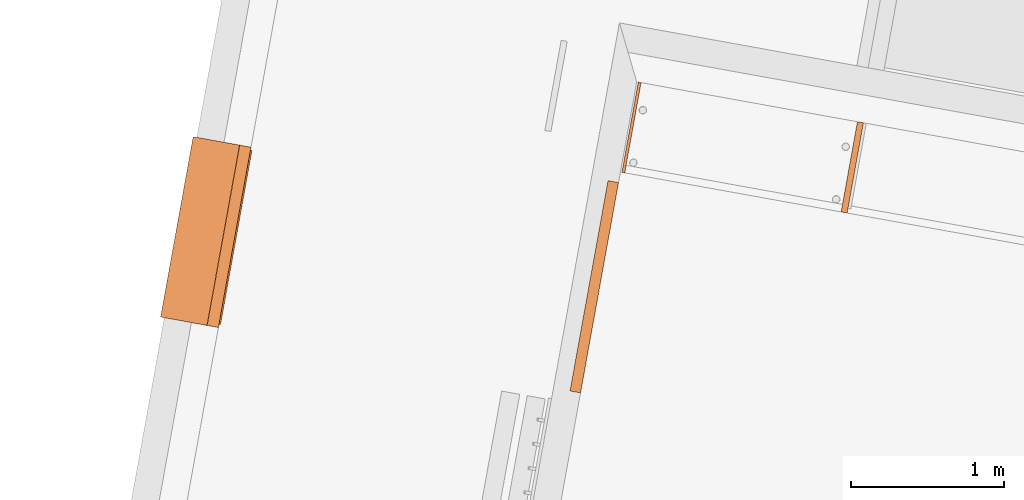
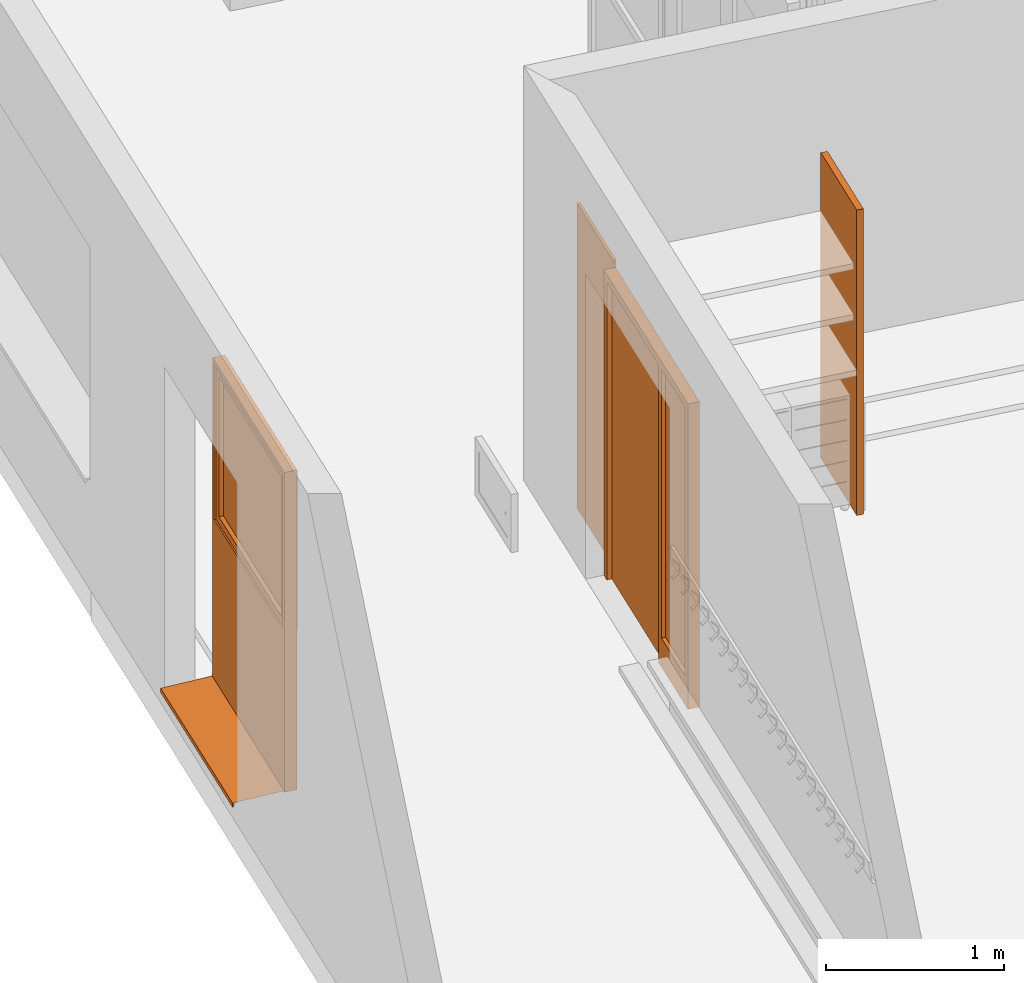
# One storey, part 13 of 52: 4 proxies.
"""IFC2X3 building model written with IfcOpenShell, lengths in metres."""

from ifc_helpers import new_model, entity, si_unit, converted_unit, derived_unit, money_unit, direction, frame, origin_with_axes, place, context, subcontext, project, spatial, polyline, outline, extrude, open_shell, faceted_brep, surface_model, source, transform, mapped, material, type_object, element, save


model = new_model("IFC2X3")

# Units and contexts
model_context = context("Model", 3, precision=1e-05, world=origin_with_axes(), true_north=direction((0.0, 1.0)))
body_context = subcontext(model_context, "Body", "Model", "MODEL_VIEW")
ifc_project = project(units=[si_unit("LENGTHUNIT", "METRE"), si_unit("AREAUNIT", "SQUARE_METRE"), si_unit("VOLUMEUNIT", "CUBIC_METRE"), converted_unit("PLANEANGLEUNIT", "DEGREE", entity("IfcPlaneAngleMeasure", 0.0174532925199), si_unit("PLANEANGLEUNIT", "RADIAN"), dimensions=[0, 0, 0, 0, 0, 0, 0]), money_unit("CHF"), converted_unit("TIMEUNIT", "Year", entity("IfcTimeMeasure", 31556926.0), si_unit("TIMEUNIT", "SECOND"), dimensions=[0, 0, 1, 0, 0, 0, 0]), si_unit("MASSUNIT", "GRAM", prefix="KILO"), si_unit("THERMODYNAMICTEMPERATUREUNIT", "DEGREE_CELSIUS"), si_unit("LUMINOUSINTENSITYUNIT", "LUMEN"), si_unit("ENERGYUNIT", "JOULE", prefix="MEGA"), derived_unit("THERMALCONDUCTANCEUNIT", [(si_unit("POWERUNIT", "WATT"), 1), (si_unit("LENGTHUNIT", "METRE"), -1), (si_unit("THERMODYNAMICTEMPERATUREUNIT", "KELVIN"), -1)]), derived_unit("SPECIFICHEATCAPACITYUNIT", [(si_unit("ENERGYUNIT", "JOULE"), 1), (si_unit("MASSUNIT", "GRAM", prefix="KILO"), -1), (si_unit("THERMODYNAMICTEMPERATUREUNIT", "KELVIN"), -1)]), derived_unit("MASSDENSITYUNIT", [(si_unit("MASSUNIT", "GRAM", prefix="KILO"), 1), (si_unit("VOLUMEUNIT", "CUBIC_METRE"), -1)])], contexts=[model_context])

# Site, building, storey
site_placement = place(None, frame((0.0, 0.0, 0.0), z_axis=(0.0, 0.0, 1.0), x_axis=(-0.177771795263, -0.984071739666, 0.0)))
site = spatial("IfcSite", under=ifc_project, at=site_placement, Name="Site", CompositionType="ELEMENT")
building_placement = place(site_placement, origin_with_axes())
building = spatial("IfcBuilding", under=site, at=building_placement, Name="Bâtiment", CompositionType="ELEMENT")
storey_placement = place(building_placement, frame((0.0, 0.0, 3.2), z_axis=(0.0, 0.0, 1.0), x_axis=(1.0, 0.0, 0.0)))
storey = spatial("IfcBuildingStorey", under=building, at=storey_placement, Name="R+1", CompositionType="ELEMENT", Elevation=3.2)

# Proxies
ifc_material_1 = material(Name="_panneau mélaminé")
building_element_proxy_type_1 = type_object("IfcBuildingElementProxyType", Name="_panneau mélaminé 40", PredefinedType="NOTDEFINED")
proxy_1_placement = place(storey_placement, frame((147.149841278, -154.978236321, 0.0), z_axis=(0.0, 0.0, 1.0), x_axis=(-1.0, 0.0, 0.0)))
element("IfcBuildingElementProxy", 1, at=proxy_1_placement, inside=storey, type_object=building_element_proxy_type_1, material=ifc_material_1, Name="cloison-fd-classe G", context=body_context, shape_type="SweptSolid", body=[
    extrude(outline(polyline([(0.0, -0.04), (0.600000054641, -0.04), (0.600000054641, 0.0), (0.0, 0.0), (0.0, -0.04)])), origin_with_axes(), (0.0, 0.0, 1.0), 2.1),
])
building_element_proxy_type_2 = type_object("IfcBuildingElementProxyType", Name="_panneau mélaminé 19", PredefinedType="NOTDEFINED")
proxy_2_placement = place(storey_placement, frame((147.149841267, -156.418093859, 0.0), z_axis=(0.0, 0.0, 1.0), x_axis=(-1.0, 0.0, 0.0)))
element("IfcBuildingElementProxy", 2, at=proxy_2_placement, inside=storey, type_object=building_element_proxy_type_2, material=ifc_material_1, Name="cloison-fd-classe G", context=body_context, shape_type="SweptSolid", body=[
    extrude(outline(polyline([(0.0, 0.0), (0.600000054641, 0.0), (0.600000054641, 0.019), (0.0, 0.019), (0.0, 0.0)])), origin_with_axes(), (0.0, 0.0, 1.0), 2.1),
])
ifc_material_2 = material(Name="Matériau de construction IFC")
building_element_proxy_type_3 = type_object("IfcBuildingElementProxyType", Name="Porte avec tierce vitrée côté 2 21", PredefinedType="NOTDEFINED")
shared_shape_1 = source(origin_with_axes(), body_context, "Body", "SurfaceModel", [
    faceted_brep([(1.4, 0.17999893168, 0.0), (1.4, 0.10999893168, 0.0), (1.35, 0.10999893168, 0.0), (1.35, 0.17999893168, 0.0), (1.4, 0.17999893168, 2.05), (1.4, 0.10999893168, 2.05), (1.35, 0.10999893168, 2.05), (1.35, 0.10999893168, 0.2), (1.35, 0.17999893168, 0.2), (1.35, 0.17999893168, 2.05)], [[[0, 1, 2, 3]], [[4, 5, 1, 0]], [[1, 5, 6, 7, 2]], [[3, 2, 7, 8]], [[0, 3, 8, 9, 4]], [[9, 6, 5, 4]], [[8, 7, 6, 9]]]),
    faceted_brep([(0.91, 0.13999893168, 0.0), (0.91, 0.10999893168, 0.0), (0.91, 0.10999893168, 2.05), (0.91, 0.13999893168, 2.05), (0.93, 0.13999893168, 0.0), (0.93, 0.17999893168, 0.0), (0.96, 0.17999893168, 0.0), (0.96, 0.10999893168, 0.0), (0.96, 0.10999893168, 0.2), (0.96, 0.10999893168, 2.05), (0.93, 0.13999893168, 2.05), (0.96, 0.17999893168, 2.05), (0.93, 0.17999893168, 2.05), (0.96, 0.17999893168, 0.2)], [[[0, 1, 2, 3]], [[4, 5, 6, 7, 1, 0]], [[7, 8, 9, 2, 1]], [[10, 3, 2, 9, 11, 12]], [[10, 4, 0, 3]], [[12, 5, 4, 10]], [[12, 11, 13, 6, 5]], [[6, 13, 8, 7]], [[13, 11, 9, 8]]]),
    faceted_brep([(1.35, 0.17999893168, 0.2), (1.35, 0.10999893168, 0.2), (1.35, 0.10999893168, 0.0), (1.35, 0.17999893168, 0.0), (0.96, 0.17999893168, 0.2), (0.96, 0.10999893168, 0.2), (0.96, 0.10999893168, 0.0), (0.96, 0.17999893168, 0.0)], [[[0, 1, 2, 3]], [[4, 5, 1, 0]], [[1, 5, 6, 2]], [[3, 2, 6, 7]], [[0, 3, 7, 4]], [[7, 6, 5, 4]]]),
    faceted_brep([(0.03, 0.13999893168, 2.05), (0.03, 0.17999893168, 2.05), (0.0, 0.17999893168, 2.05), (0.0, 0.10999893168, 2.05), (0.05, 0.10999893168, 2.05), (0.05, 0.13999893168, 2.05), (0.03, 0.13999893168, 0.0), (0.03, 0.17999893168, 0.0), (0.0, 0.17999893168, 0.0), (0.0, 0.10999893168, 0.0), (0.05, 0.10999893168, 0.0), (0.05, 0.13999893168, 0.0)], [[[0, 1, 2, 3, 4, 5]], [[0, 6, 7, 1]], [[7, 8, 2, 1]], [[2, 8, 9, 3]], [[3, 9, 10, 4]], [[5, 4, 10, 11]], [[5, 11, 6, 0]], [[6, 11, 10, 9, 8, 7]]]),
    faceted_brep([(0.93, 0.17999893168, 2.07), (0.03, 0.17999893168, 2.07), (0.03, 0.17999893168, 2.05), (0.0, 0.17999893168, 2.05), (0.0, 0.17999893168, 2.1), (1.4, 0.17999893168, 2.1), (1.4, 0.17999893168, 2.05), (1.35, 0.17999893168, 2.05), (0.96, 0.17999893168, 2.05), (0.93, 0.17999893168, 2.05), (0.93, 0.13999893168, 2.07), (0.03, 0.13999893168, 2.07), (0.03, 0.13999893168, 2.05), (0.05, 0.13999893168, 2.05), (0.05, 0.10999893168, 2.05), (0.0, 0.10999893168, 2.05), (0.0, 0.10999893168, 2.1), (1.4, 0.10999893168, 2.1), (1.4, 0.10999893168, 2.05), (1.35, 0.10999893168, 2.05), (0.96, 0.10999893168, 2.05), (0.93, 0.13999893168, 2.05), (0.91, 0.10999893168, 2.05)], [[[0, 1, 2, 3, 4, 5, 6, 7, 8, 9]], [[0, 10, 11, 1]], [[1, 11, 12, 2]], [[12, 13, 14, 15, 3, 2]], [[4, 3, 15, 16]], [[5, 4, 16, 17]], [[6, 5, 17, 18]], [[7, 6, 18, 19]], [[8, 7, 19, 20]], [[21, 9, 8, 20, 22, 14, 13]], [[9, 21, 10, 0]], [[12, 11, 10, 21, 13]], [[14, 22, 20, 19, 18, 17, 16, 15]]]),
    faceted_brep([(0.03, 0.17999893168, 0.0), (0.93, 0.17999893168, 0.0), (0.93, 0.13999893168, 0.0), (0.03, 0.13999893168, 0.0), (0.03, 0.17999893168, 2.07), (0.93, 0.17999893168, 2.07), (0.93, 0.13999893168, 2.07), (0.03, 0.13999893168, 2.07)], [[[0, 1, 2, 3]], [[0, 4, 5, 1]], [[1, 5, 6, 2]], [[3, 2, 6, 7]], [[4, 0, 3, 7]], [[5, 4, 7, 6]]]),
    surface_model("IfcShellBasedSurfaceModel", [(1.35, 0.14499893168, 0.2), (0.96, 0.14499893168, 0.2), (0.96, 0.14499893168, 2.05), (1.35, 0.14499893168, 2.05)], [open_shell([[[0, 1, 2, 3]]])]),
    surface_model("IfcShellBasedSurfaceModel", [(1.35, 0.13499893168, 0.2), (1.35, 0.13499893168, 2.05), (0.96, 0.13499893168, 2.05), (0.96, 0.13499893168, 0.2)], [open_shell([[[0, 1, 2, 3]]])]),
])
proxy_3_placement = place(storey_placement, frame((147.219841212, -156.62715293, 0.0), z_axis=(0.0, 0.0, 1.0), x_axis=(1.0, 0.0, 0.0)))
element("IfcBuildingElementProxy", 3, at=proxy_3_placement, inside=storey, type_object=building_element_proxy_type_3, material=ifc_material_2, Name="17", context=body_context, shape_type="MappedRepresentation", body=[
    mapped(shared_shape_1, transform((0.0, 0.0, 0.0))),
])
building_element_proxy_type_4 = type_object("IfcBuildingElementProxyType", Name="Fenêtre variable 21", PredefinedType="NOTDEFINED")
shared_shape_2 = source(origin_with_axes(), body_context, "Body", "SurfaceModel", [
    surface_model("IfcShellBasedSurfaceModel", [(0.0, 0.284, 0.02), (0.0, 0.284, 0.01), (1.2, 0.284, 0.01), (1.2, 0.284, 0.02), (0.0, -0.025, -0.00087719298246), (1.2, -0.025, -0.00087719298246), (0.0, -0.025, -0.0308771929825), (1.2, -0.025, -0.0308771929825), (0.0, -0.0125, -0.0183771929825), (1.2, -0.0125, -0.0183771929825)], [open_shell([[[0, 1, 2, 3]], [[1, 4, 5, 2]], [[4, 6, 7, 5]], [[6, 8, 9, 7]]])]),
    faceted_brep([(0.02, 0.36, 2.169), (0.0, 0.36, 2.169), (0.0, 0.285, 2.169), (0.03, 0.285, 2.169), (0.03, 0.295, 2.169), (0.02, 0.295, 2.169), (0.02, 0.36, 1.095), (0.03, 0.36, 1.095), (0.03, 0.36, 1.055), (0.03, 0.36, 0.05), (0.0, 0.36, 0.05), (0.0, 0.285, 0.05), (0.03, 0.285, 1.105), (0.03, 0.285, 0.05), (0.03, 0.285, 1.055), (0.03, 0.295, 1.105), (0.03, 0.295, 1.095), (0.02, 0.295, 1.095)], [[[0, 1, 2, 3, 4, 5]], [[6, 7, 8, 9, 10, 1, 0]], [[1, 10, 11, 2]], [[12, 3, 2, 11, 13, 14]], [[4, 3, 12, 15]], [[15, 16, 17, 5, 4]], [[5, 17, 6, 0]], [[6, 17, 16, 7]], [[16, 15, 12, 14, 8, 7]], [[9, 8, 14, 13]], [[10, 9, 13, 11]]]),
    faceted_brep([(1.17, 0.295, 2.169), (1.17, 0.285, 2.169), (1.2, 0.285, 2.169), (1.2, 0.36, 2.169), (1.18, 0.36, 2.169), (1.18, 0.295, 2.169), (1.17, 0.295, 1.105), (1.17, 0.285, 1.105), (1.2, 0.285, 0.05), (1.17, 0.285, 1.055), (1.17, 0.285, 0.05), (1.2, 0.36, 0.05), (1.18, 0.36, 1.095), (1.17, 0.36, 0.05), (1.17, 0.36, 1.055), (1.17, 0.36, 1.095), (1.18, 0.295, 1.095), (1.17, 0.295, 1.095)], [[[0, 1, 2, 3, 4, 5]], [[6, 7, 1, 0]], [[8, 2, 1, 7, 9, 10]], [[11, 3, 2, 8]], [[12, 4, 3, 11, 13, 14, 15]], [[12, 16, 5, 4]], [[5, 16, 17, 6, 0]], [[17, 15, 14, 9, 7, 6]], [[14, 13, 10, 9]], [[13, 11, 8, 10]], [[15, 17, 16, 12]]]),
    faceted_brep([(0.03, 0.295, 1.105), (0.03, 0.285, 1.105), (1.17, 0.285, 1.105), (1.17, 0.295, 1.105), (0.03, 0.295, 1.095), (0.03, 0.36, 1.095), (0.03, 0.36, 1.055), (0.03, 0.285, 1.055), (1.17, 0.285, 1.055), (1.17, 0.295, 1.095), (1.17, 0.36, 1.055), (1.17, 0.36, 1.095)], [[[0, 1, 2, 3]], [[4, 5, 6, 7, 1, 0]], [[8, 2, 1, 7]], [[9, 3, 2, 8, 10, 11]], [[9, 4, 0, 3]], [[5, 4, 9, 11]], [[11, 10, 6, 5]], [[6, 10, 8, 7]]]),
    faceted_brep([(0.02, 0.36, 2.169), (0.0, 0.36, 2.169), (0.0, 0.36, 2.199), (1.2, 0.36, 2.199), (1.2, 0.36, 2.169), (1.18, 0.36, 2.169), (1.18, 0.36, 2.179), (0.02, 0.36, 2.179), (0.02, 0.295, 2.169), (0.03, 0.295, 2.169), (0.03, 0.285, 2.169), (0.0, 0.285, 2.169), (0.0, 0.285, 2.199), (1.2, 0.285, 2.199), (1.2, 0.285, 2.169), (1.18, 0.295, 2.169), (1.17, 0.285, 2.169), (1.17, 0.295, 2.169), (1.18, 0.295, 2.179), (0.02, 0.295, 2.179)], [[[0, 1, 2, 3, 4, 5, 6, 7]], [[8, 9, 10, 11, 1, 0]], [[2, 1, 11, 12]], [[3, 2, 12, 13]], [[4, 3, 13, 14]], [[15, 5, 4, 14, 16, 17]], [[5, 15, 18, 6]], [[6, 18, 19, 7]], [[7, 19, 8, 0]], [[17, 9, 8, 19, 18, 15]], [[17, 16, 10, 9]], [[14, 13, 12, 11, 10, 16]]]),
    faceted_brep([(0.03, 0.285, 0.05), (0.03, 0.36, 0.05), (0.0, 0.36, 0.05), (0.0, 0.285, 0.05), (1.17, 0.285, 0.05), (1.17, 0.36, 0.05), (1.2, 0.36, 0.05), (1.2, 0.36, 0.0), (0.0, 0.36, 0.0), (0.0, 0.285, 0.0), (1.2, 0.285, 0.0), (1.2, 0.285, 0.05)], [[[0, 1, 2, 3]], [[4, 5, 1, 0]], [[1, 5, 6, 7, 8, 2]], [[3, 2, 8, 9]], [[0, 3, 9, 10, 11, 4]], [[11, 6, 5, 4]], [[10, 7, 6, 11]], [[9, 8, 7, 10]]]),
    faceted_brep([(0.08, 0.295, 2.119), (0.08, 0.37, 2.119), (0.02, 0.37, 2.119), (0.02, 0.295, 2.119), (0.08, 0.295, 1.155), (0.08, 0.37, 1.155), (0.02, 0.37, 1.155), (0.02, 0.295, 1.155)], [[[0, 1, 2, 3]], [[4, 5, 1, 0]], [[1, 5, 6, 2]], [[3, 2, 6, 7]], [[0, 3, 7, 4]], [[7, 6, 5, 4]]]),
    faceted_brep([(1.12, 0.295, 1.155), (1.12, 0.37, 1.155), (1.18, 0.37, 1.155), (1.18, 0.295, 1.155), (1.12, 0.295, 2.119), (1.12, 0.37, 2.119), (1.18, 0.37, 2.119), (1.18, 0.295, 2.119)], [[[0, 1, 2, 3]], [[4, 5, 1, 0]], [[1, 5, 6, 2]], [[3, 2, 6, 7]], [[0, 3, 7, 4]], [[7, 6, 5, 4]]]),
    faceted_brep([(1.18, 0.295, 1.095), (1.18, 0.37, 1.095), (1.18, 0.37, 1.155), (1.18, 0.295, 1.155), (0.02, 0.295, 1.095), (0.02, 0.37, 1.095), (0.02, 0.37, 1.155), (0.08, 0.37, 1.155), (1.12, 0.37, 1.155), (1.12, 0.295, 1.155), (0.08, 0.295, 1.155), (0.02, 0.295, 1.155)], [[[0, 1, 2, 3]], [[4, 5, 1, 0]], [[1, 5, 6, 7, 8, 2]], [[3, 2, 8, 9]], [[0, 3, 9, 10, 11, 4]], [[11, 6, 5, 4]], [[10, 7, 6, 11]], [[9, 8, 7, 10]]]),
    faceted_brep([(0.02, 0.295, 2.179), (0.02, 0.37, 2.179), (0.02, 0.37, 2.119), (0.02, 0.295, 2.119), (1.18, 0.295, 2.179), (1.18, 0.37, 2.179), (1.18, 0.37, 2.119), (1.12, 0.37, 2.119), (0.08, 0.37, 2.119), (0.08, 0.295, 2.119), (1.12, 0.295, 2.119), (1.18, 0.295, 2.119)], [[[0, 1, 2, 3]], [[4, 5, 1, 0]], [[1, 5, 6, 7, 8, 2]], [[3, 2, 8, 9]], [[0, 3, 9, 10, 11, 4]], [[11, 6, 5, 4]], [[10, 7, 6, 11]], [[9, 8, 7, 10]]]),
    surface_model("IfcShellBasedSurfaceModel", [(0.08, 0.3225, 1.155), (1.12, 0.3225, 1.155), (1.12, 0.3225, 2.119), (0.08, 0.3225, 2.119)], [open_shell([[[0, 1, 2, 3]]])]),
    surface_model("IfcShellBasedSurfaceModel", [(0.08, 0.3425, 1.155), (0.08, 0.3425, 2.119), (1.12, 0.3425, 2.119), (1.12, 0.3425, 1.155)], [open_shell([[[0, 1, 2, 3]]])]),
    surface_model("IfcShellBasedSurfaceModel", [(0.03, 0.285, 0.05), (1.17, 0.285, 0.05), (1.17, 0.285, 1.055), (0.03, 0.285, 1.055)], [open_shell([[[0, 1, 2, 3]]])]),
    surface_model("IfcShellBasedSurfaceModel", [(0.03, 0.305, 0.05), (0.03, 0.305, 1.055), (1.17, 0.305, 1.055), (1.17, 0.305, 0.05)], [open_shell([[[0, 1, 2, 3]]])]),
])
proxy_4_placement = place(storey_placement, frame((147.419841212, -159.217107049, 0.001), z_axis=(0.0, 0.0, 1.0), x_axis=(1.0, 0.0, 0.0)))
element("IfcBuildingElementProxy", 4, at=proxy_4_placement, inside=storey, type_object=building_element_proxy_type_4, material=ifc_material_2, Name="Fen couloir", context=body_context, shape_type="MappedRepresentation", body=[
    mapped(shared_shape_2, transform((0.0, 0.0, 0.0))),
])

save(model, "model.ifc")
